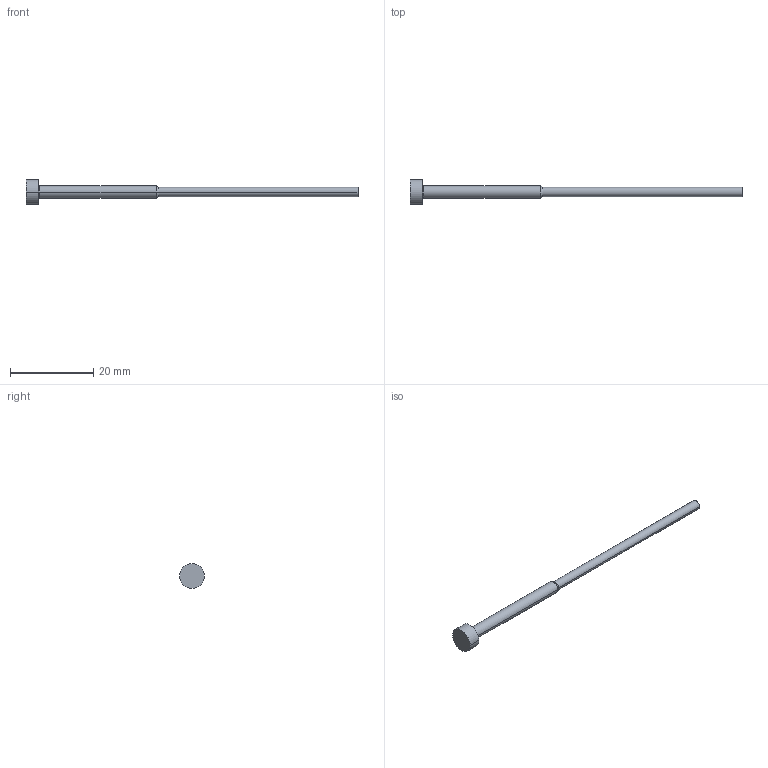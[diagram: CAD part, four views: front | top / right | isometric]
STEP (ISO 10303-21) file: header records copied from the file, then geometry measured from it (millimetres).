
FILE_DESCRIPTION (( 'STEP AP214' ), '1' );
FILE_NAME ('C-2,30x80.STEP', '2020-06-03T16:12:42', ( 'August' ), ( '' ), 'SwSTEP 2.0', 'SolidWorks 2018', '' );
FILE_SCHEMA (( 'AUTOMOTIVE_DESIGN' ));
Length unit declared in the file: millimetre
Products named in the file (1): C-2,30x80
Bounding box: 80 x 6 x 6 mm (x, y, z)
Volume: 488.5 mm3; surface area: 729.3 mm2
Topology: 1 solids, 1 shells, 13 faces, 24 edges, 14 vertices
Faces by surface type: cylinder 6, plane 3, torus 2, cone 2
Entity records: 360 total; most frequent: DIRECTION 68, CARTESIAN_POINT 52, ORIENTED_EDGE 48, AXIS2_PLACEMENT_3D 30, EDGE_CURVE 24, CIRCLE 16, EDGE_LOOP 14, VERTEX_POINT 14
